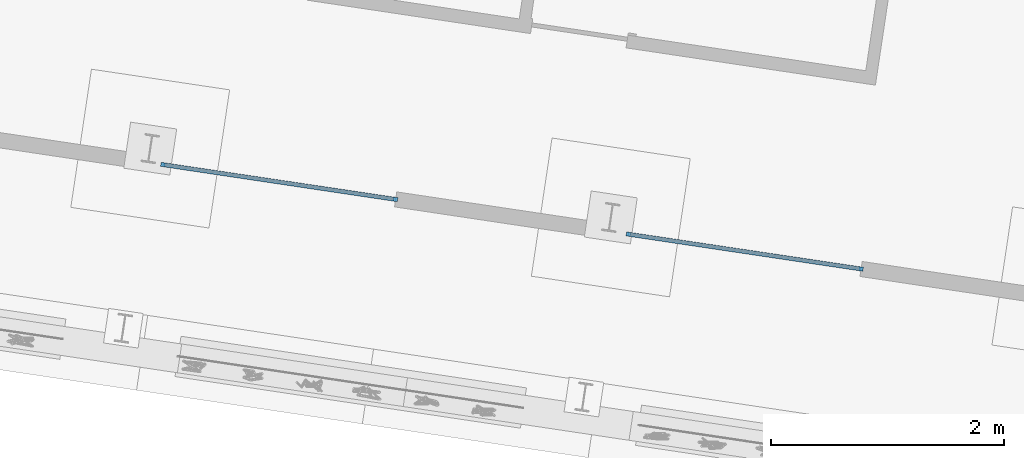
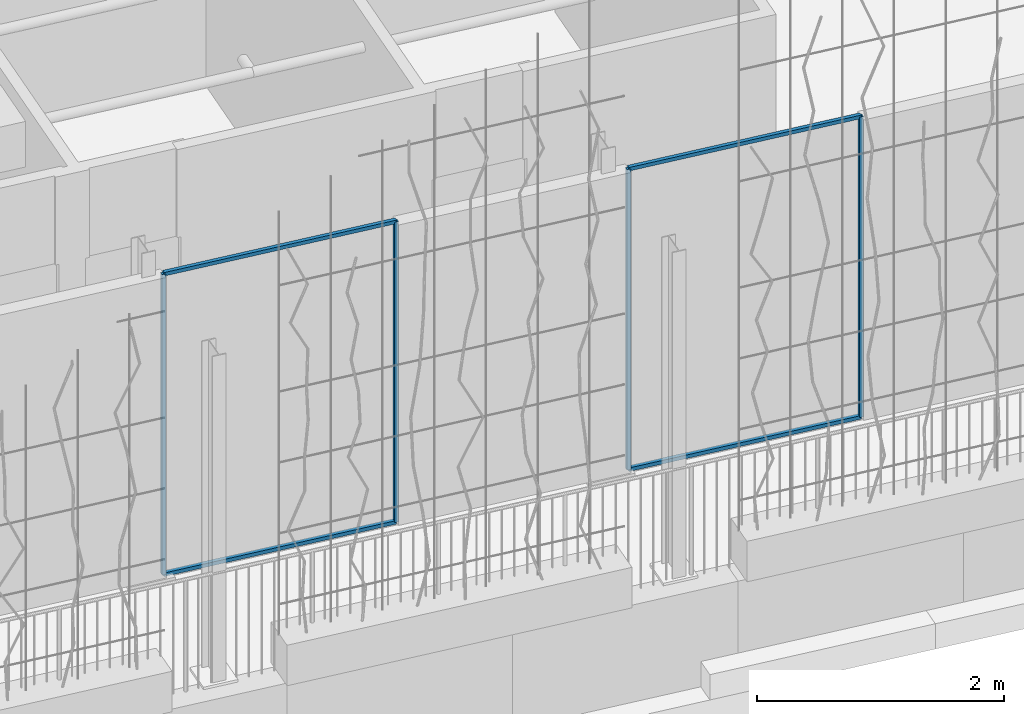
# One storey, part 80 of 142: 8 members.
"""IFC4 building model written with IfcOpenShell, lengths in metres."""

from ifc_helpers import new_model, si_unit, direction, frame, origin_with_axes, place, context, subcontext, project, spatial, rectangle, extrude, material, material_profile, profile_set, profile_usage, type_object, element, save


model = new_model("IFC4")

# Units and contexts
model_context = context("Model", 3, precision=1e-05, world=origin_with_axes(), true_north=direction((0.0, 1.0)))
body_context = subcontext(model_context, "Body", "Model", "MODEL_VIEW")
ifc_project = project(units=[si_unit("VOLUMEUNIT", "CUBIC_METRE"), si_unit("LENGTHUNIT", "METRE"), si_unit("AREAUNIT", "SQUARE_METRE")], contexts=[model_context])

# Site, building, storey
site_placement = place(None, origin_with_axes())
site = spatial("IfcSite", under=ifc_project, at=site_placement, Name="Lares · Rua das Mercês · artigo 4771")
building_placement = place(site_placement, frame((12.0, 10.2, 13.9), z_axis=(0.0, 0.0, 1.0), x_axis=(0.989015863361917, -0.147809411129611, 0.0)))
building = spatial("IfcBuilding", under=site, at=building_placement, Name="Casa Sobreposta")
storey_placement = place(building_placement, origin_with_axes())
storey = spatial("IfcBuildingStorey", under=building, at=storey_placement, Name="00 · Habitação e estacionamento", Elevation=13.9)

# Members
ifc_material = material(Name="Aço pintado / Stahl lackiert", Category="steel")
ifc_material_profile = material_profile(ifc_material, rectangle(XDim=0.035, YDim=0.035))
ifc_profile_set = profile_set([ifc_material_profile], Name="R0.035")
ifc_profile_usage_1 = profile_usage(ifc_profile_set)
member_type = type_object("IfcMemberType", Name="R0.035 / steel", PredefinedType="NOTDEFINED", material=ifc_profile_set)
member_1_placement = place(storey_placement, frame((12.128, 0.0, 0.0), z_axis=(0.0, 0.0, 1.0), x_axis=(1.0, 0.0, 0.0)))
element("IfcMember", 1, at=member_1_placement, inside=storey, type_object=member_type, material=ifc_profile_usage_1, Name="Folha de correr sul 6 · montante", context=body_context, shape_type="SweptSolid", body=[
    extrude(rectangle(XDim=0.035, YDim=0.035), origin_with_axes(), (0.0, 0.0, 1.0), 2.968),
])
ifc_profile_usage_2 = profile_usage(ifc_profile_set)
member_2_placement = place(storey_placement, frame((14.1493333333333, 0.0, 0.0), z_axis=(0.0, 0.0, 1.0), x_axis=(1.0, 0.0, 0.0)))
element("IfcMember", 2, at=member_2_placement, inside=storey, type_object=member_type, material=ifc_profile_usage_2, Name="Folha de correr sul 6 · montante", context=body_context, shape_type="SweptSolid", body=[
    extrude(rectangle(XDim=0.035, YDim=0.035), origin_with_axes(), (0.0, 0.0, 1.0), 2.968),
])
ifc_profile_usage_3 = profile_usage(ifc_profile_set)
member_3_placement = place(storey_placement, frame((12.128, 0.0, 0.0), z_axis=(1.0, 0.0, 0.0), x_axis=(0.0, -1.0, 0.0)))
element("IfcMember", 3, at=member_3_placement, inside=storey, type_object=member_type, material=ifc_profile_usage_3, Name="Folha de correr sul 6 · travessa", context=body_context, shape_type="SweptSolid", body=[
    extrude(rectangle(XDim=0.035, YDim=0.035), origin_with_axes(), (0.0, 0.0, 1.0), 2.02133333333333),
])
ifc_profile_usage_4 = profile_usage(ifc_profile_set)
member_4_placement = place(storey_placement, frame((12.128, 0.0, 2.968), z_axis=(1.0, 0.0, 0.0), x_axis=(0.0, -1.0, 0.0)))
element("IfcMember", 4, at=member_4_placement, inside=storey, type_object=member_type, material=ifc_profile_usage_4, Name="Folha de correr sul 6 · travessa", context=body_context, shape_type="SweptSolid", body=[
    extrude(rectangle(XDim=0.035, YDim=0.035), origin_with_axes(), (0.0, 0.0, 1.0), 2.02133333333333),
])
ifc_profile_usage_5 = profile_usage(ifc_profile_set)
member_5_placement = place(storey_placement, frame((16.1706666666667, 0.0, 0.0), z_axis=(0.0, 0.0, 1.0), x_axis=(1.0, 0.0, 0.0)))
element("IfcMember", 5, at=member_5_placement, inside=storey, type_object=member_type, material=ifc_profile_usage_5, Name="Folha de correr sul 8 · montante", context=body_context, shape_type="SweptSolid", body=[
    extrude(rectangle(XDim=0.035, YDim=0.035), origin_with_axes(), (0.0, 0.0, 1.0), 2.968),
])
ifc_profile_usage_6 = profile_usage(ifc_profile_set)
member_6_placement = place(storey_placement, frame((18.192, 0.0, 0.0), z_axis=(0.0, 0.0, 1.0), x_axis=(1.0, 0.0, 0.0)))
element("IfcMember", 6, at=member_6_placement, inside=storey, type_object=member_type, material=ifc_profile_usage_6, Name="Folha de correr sul 8 · montante", context=body_context, shape_type="SweptSolid", body=[
    extrude(rectangle(XDim=0.035, YDim=0.035), origin_with_axes(), (0.0, 0.0, 1.0), 2.968),
])
ifc_profile_usage_7 = profile_usage(ifc_profile_set)
member_7_placement = place(storey_placement, frame((16.1706666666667, 0.0, 0.0), z_axis=(1.0, 0.0, 0.0), x_axis=(0.0, -1.0, 0.0)))
element("IfcMember", 7, at=member_7_placement, inside=storey, type_object=member_type, material=ifc_profile_usage_7, Name="Folha de correr sul 8 · travessa", context=body_context, shape_type="SweptSolid", body=[
    extrude(rectangle(XDim=0.035, YDim=0.035), origin_with_axes(), (0.0, 0.0, 1.0), 2.02133333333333),
])
ifc_profile_usage_8 = profile_usage(ifc_profile_set)
member_8_placement = place(storey_placement, frame((16.1706666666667, 0.0, 2.968), z_axis=(1.0, 0.0, 0.0), x_axis=(0.0, -1.0, 0.0)))
element("IfcMember", 8, at=member_8_placement, inside=storey, type_object=member_type, material=ifc_profile_usage_8, Name="Folha de correr sul 8 · travessa", context=body_context, shape_type="SweptSolid", body=[
    extrude(rectangle(XDim=0.035, YDim=0.035), origin_with_axes(), (0.0, 0.0, 1.0), 2.02133333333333),
])

save(model, "model.ifc")
